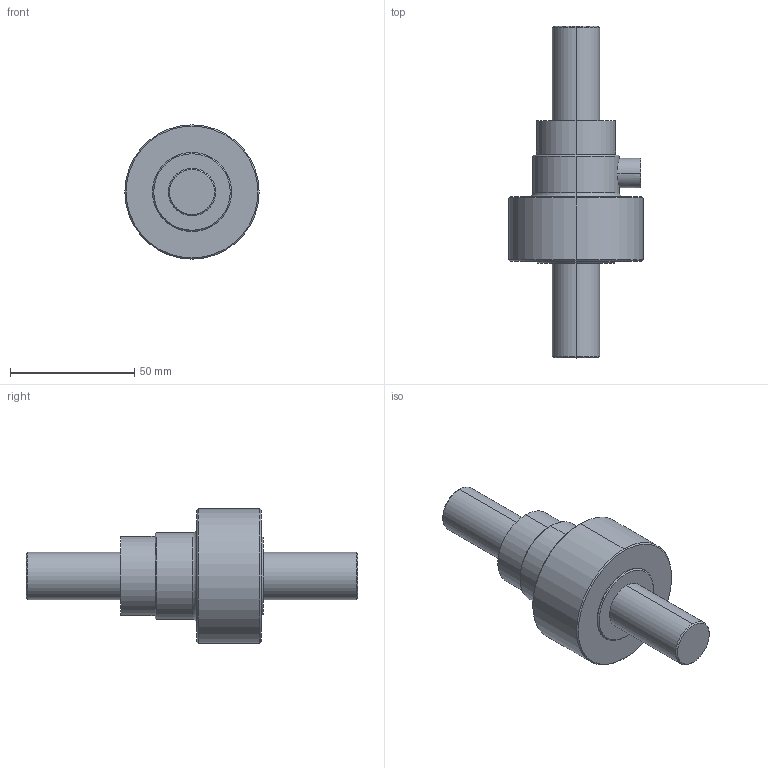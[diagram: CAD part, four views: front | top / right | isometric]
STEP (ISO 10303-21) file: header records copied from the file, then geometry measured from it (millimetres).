
FILE_DESCRIPTION (( 'STEP AP214' ), '1' );
FILE_NAME ('TT53V10KLB.STEP', '2024-09-05T14:40:36', ( '' ), ( '' ), 'SwSTEP 2.0', 'SolidWorks 2008', '' );
FILE_SCHEMA (( 'AUTOMOTIVE_DESIGN' ));
Length unit declared in the file: inch
Products named in the file (1): TT53V10KLB
Bounding box: 53.98 x 133.35 x 53.98 mm (x, y, z)
Volume: 109452 mm3; surface area: 16870.1 mm2
Topology: 1 solids, 1 shells, 36 faces, 70 edges, 42 vertices
Faces by surface type: cylinder 14, cone 12, plane 8, torus 2
Entity records: 1031 total; most frequent: CARTESIAN_POINT 233, DIRECTION 184, ORIENTED_EDGE 140, AXIS2_PLACEMENT_3D 79, EDGE_CURVE 70, VERTEX_POINT 42, CIRCLE 42, EDGE_LOOP 42
